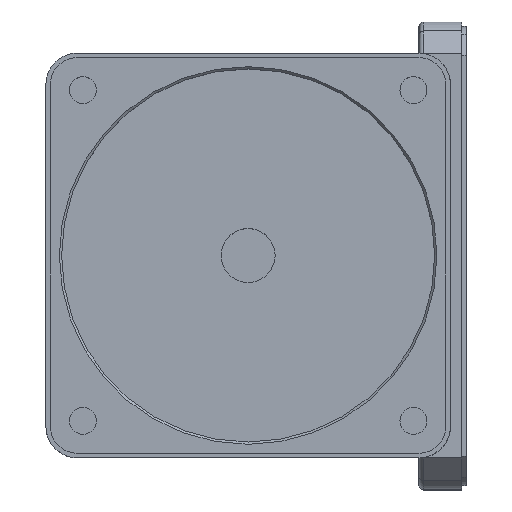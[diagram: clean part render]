
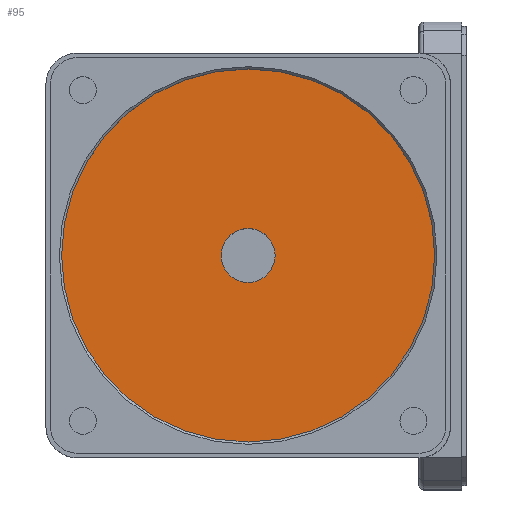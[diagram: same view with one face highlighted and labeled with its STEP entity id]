
A CAD part, top view. The second image highlights one B-rep face of the part: STEP entity #95.
In plain terms, the highlighted planar face has unit normal (0, 0, 1).
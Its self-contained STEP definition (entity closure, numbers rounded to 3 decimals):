
#68=CARTESIAN_POINT('',(0.0,0.0,22.7));
#69=DIRECTION('',(0.0,0.0,-1.0));
#70=DIRECTION('',(-1.0,0.0,0.0));
#71=AXIS2_PLACEMENT_3D('',#68,#69,#70);
#72=PLANE('',#71);
#73=CARTESIAN_POINT('',(41.5,0.,22.7));
#74=VERTEX_POINT('',#73);
#75=CARTESIAN_POINT('',(0.0,0.0,22.7));
#76=DIRECTION('',(0.0,0.0,1.0));
#77=DIRECTION('',(-1.0,0.0,0.0));
#78=AXIS2_PLACEMENT_3D('',#75,#76,#77);
#79=CIRCLE('',#78,41.5);
#80=EDGE_CURVE('',#74,#74,#79,.T.);
#81=ORIENTED_EDGE('',*,*,#80,.T.);
#82=EDGE_LOOP('',(#81));
#83=FACE_OUTER_BOUND('',#82,.T.);
#84=CARTESIAN_POINT('',(6.,0.,22.7));
#85=VERTEX_POINT('',#84);
#86=CARTESIAN_POINT('',(0.0,0.0,22.7));
#87=DIRECTION('',(0.0,0.0,1.0));
#88=DIRECTION('',(-1.0,0.0,0.0));
#89=AXIS2_PLACEMENT_3D('',#86,#87,#88);
#90=CIRCLE('',#89,6.);
#91=EDGE_CURVE('',#85,#85,#90,.T.);
#92=ORIENTED_EDGE('',*,*,#91,.F.);
#93=EDGE_LOOP('',(#92));
#94=FACE_BOUND('',#93,.T.);
#95=ADVANCED_FACE('',(#83,#94),#72,.F.);
